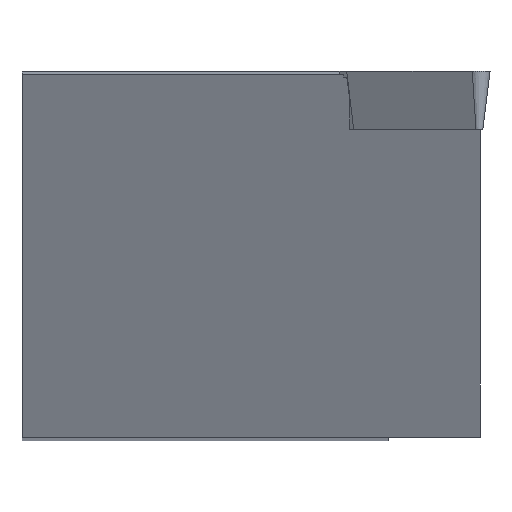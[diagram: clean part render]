
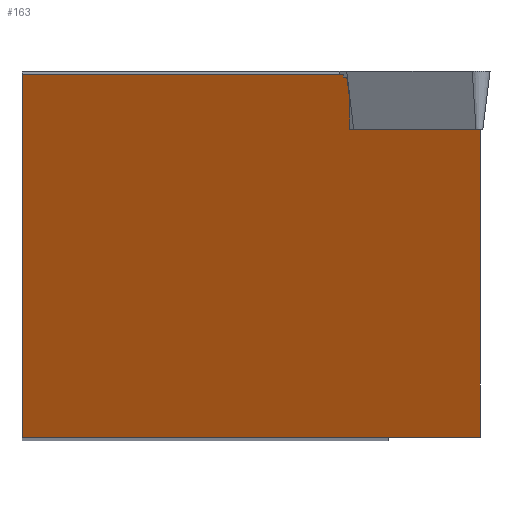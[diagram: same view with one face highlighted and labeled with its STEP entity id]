
A CAD part, top view. The second image highlights one B-rep face of the part: STEP entity #163.
In plain terms, the highlighted planar face has unit normal (-0.53, 0, 0.848).
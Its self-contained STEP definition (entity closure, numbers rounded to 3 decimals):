
#127=FACE_OUTER_BOUND('',#243,.T.);
#163=ADVANCED_FACE('',(#127),#194,.F.);
#194=PLANE('',#773);
#243=EDGE_LOOP('',(#386,#387,#388,#389,#390,#391,#392,#393,#394));
#386=ORIENTED_EDGE('',*,*,#572,.T.);
#387=ORIENTED_EDGE('',*,*,#573,.T.);
#388=ORIENTED_EDGE('',*,*,#568,.F.);
#389=ORIENTED_EDGE('',*,*,#527,.T.);
#390=ORIENTED_EDGE('',*,*,#522,.F.);
#391=ORIENTED_EDGE('',*,*,#571,.T.);
#392=ORIENTED_EDGE('',*,*,#556,.T.);
#393=ORIENTED_EDGE('',*,*,#551,.F.);
#394=ORIENTED_EDGE('',*,*,#548,.F.);
#457=VERTEX_POINT('',#1005);
#458=VERTEX_POINT('',#1007);
#462=VERTEX_POINT('',#1017);
#475=VERTEX_POINT('',#1054);
#477=VERTEX_POINT('',#1058);
#479=VERTEX_POINT('',#1063);
#483=VERTEX_POINT('',#1076);
#488=VERTEX_POINT('',#1088);
#493=VERTEX_POINT('',#1106);
#522=EDGE_CURVE('',#457,#458,#602,.T.);
#527=EDGE_CURVE('',#462,#458,#607,.T.);
#548=EDGE_CURVE('',#477,#475,#628,.T.);
#551=EDGE_CURVE('',#475,#479,#631,.T.);
#556=EDGE_CURVE('',#483,#479,#636,.T.);
#568=EDGE_CURVE('',#462,#488,#645,.T.);
#571=EDGE_CURVE('',#457,#483,#648,.T.);
#572=EDGE_CURVE('',#477,#493,#649,.T.);
#573=EDGE_CURVE('',#493,#488,#650,.T.);
#602=LINE('',#1006,#679);
#607=LINE('',#1016,#684);
#628=LINE('',#1059,#705);
#631=LINE('',#1065,#708);
#636=LINE('',#1075,#713);
#645=LINE('',#1097,#722);
#648=LINE('',#1103,#725);
#649=LINE('',#1105,#726);
#650=LINE('',#1107,#727);
#679=VECTOR('',#837,1.);
#684=VECTOR('',#844,1.);
#705=VECTOR('',#877,1.);
#708=VECTOR('',#882,1.);
#713=VECTOR('',#891,1.);
#722=VECTOR('',#908,1.);
#725=VECTOR('',#915,1.);
#726=VECTOR('',#918,1.);
#727=VECTOR('',#919,1.);
#773=AXIS2_PLACEMENT_3D('',#1108,#920,#921);
#837=DIRECTION('',(-0.848,0.,-0.53));
#844=DIRECTION('',(0.,-1.,0.));
#877=DIRECTION('',(0.126,-0.989,0.079));
#882=DIRECTION('',(0.,-1.,0.));
#891=DIRECTION('',(-0.848,0.,-0.53));
#908=DIRECTION('',(0.848,0.,0.53));
#915=DIRECTION('',(0.,1.,0.));
#918=DIRECTION('',(-0.848,0.,-0.53));
#919=DIRECTION('',(0.,1.,0.));
#920=DIRECTION('',(0.53,0.,-0.848));
#921=DIRECTION('',(-0.848,0.,-0.53));
#1005=CARTESIAN_POINT('',(-0.72,-25.,-0.94));
#1006=CARTESIAN_POINT('',(-0.72,-25.,-0.94));
#1007=CARTESIAN_POINT('',(-32.,-25.,-20.486));
#1016=CARTESIAN_POINT('',(-32.,0.,-20.486));
#1017=CARTESIAN_POINT('',(-32.,-0.2,-20.486));
#1054=CARTESIAN_POINT('',(-9.606,-2.07,-6.492));
#1058=CARTESIAN_POINT('',(-9.819,-0.4,-6.625));
#1059=CARTESIAN_POINT('',(-9.985,0.907,-6.729));
#1063=CARTESIAN_POINT('',(-9.606,-3.97,-6.492));
#1065=CARTESIAN_POINT('',(-9.606,-3.97,-6.492));
#1075=CARTESIAN_POINT('',(-5.374,-3.97,-3.848));
#1076=CARTESIAN_POINT('',(-0.72,-3.97,-0.94));
#1088=CARTESIAN_POINT('',(-10.051,-0.2,-6.77));
#1097=CARTESIAN_POINT('',(-35.826,-0.2,-22.877));
#1103=CARTESIAN_POINT('',(-0.72,-25.,-0.94));
#1105=CARTESIAN_POINT('',(-0.72,-0.4,-0.94));
#1106=CARTESIAN_POINT('',(-10.051,-0.4,-6.77));
#1107=CARTESIAN_POINT('',(-10.051,-25.,-6.77));
#1108=CARTESIAN_POINT('',(-0.72,-25.,-0.94));
